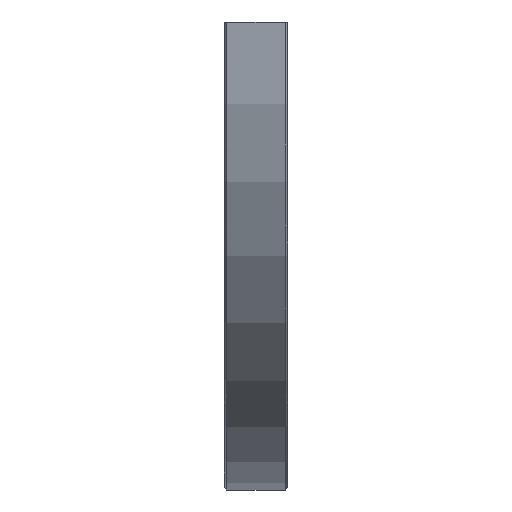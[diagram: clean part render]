
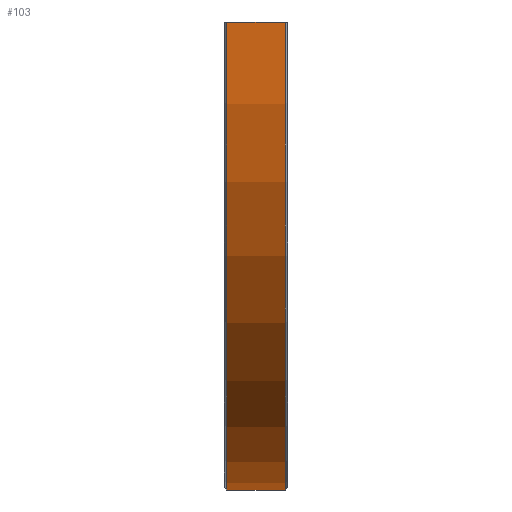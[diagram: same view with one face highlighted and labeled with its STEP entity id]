
A CAD part, left-side view. The second image highlights one B-rep face of the part: STEP entity #103.
In plain terms, the highlighted cylindrical face has radius 91 mm (diameter 182 mm), a partial arc.
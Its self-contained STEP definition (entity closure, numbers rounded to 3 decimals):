
#103=ADVANCED_FACE('',(#184),#185,.T.);
#184=FACE_OUTER_BOUND('',#284,.T.);
#185=CYLINDRICAL_SURFACE('',#285,91.0);
#284=EDGE_LOOP('',(#540,#541,#542,#543));
#285=AXIS2_PLACEMENT_3D('',#544,#545,#546);
#540=ORIENTED_EDGE('',*,*,#674,.T.);
#541=ORIENTED_EDGE('',*,*,#768,.T.);
#542=ORIENTED_EDGE('',*,*,#769,.F.);
#543=ORIENTED_EDGE('',*,*,#732,.F.);
#544=CARTESIAN_POINT('',(0.0,0.0,0.0));
#545=DIRECTION('',(0.0,-1.0,0.0));
#546=DIRECTION('',(0.0,0.0,1.0));
#674=EDGE_CURVE('',#787,#779,#788,.T.);
#732=EDGE_CURVE('',#787,#899,#900,.T.);
#768=EDGE_CURVE('',#779,#947,#948,.T.);
#769=EDGE_CURVE('',#899,#947,#949,.T.);
#779=VERTEX_POINT('',#959);
#787=VERTEX_POINT('',#971);
#788=LINE('',#972,#973);
#899=VERTEX_POINT('',#1125);
#900=CIRCLE('',#1126,91.0);
#947=VERTEX_POINT('',#1204);
#948=CIRCLE('',#1205,91.0);
#949=LINE('',#1206,#1207);
#959=CARTESIAN_POINT('',(0.,-9.325,-91.0));
#971=CARTESIAN_POINT('',(0.0,1.925,-91.0));
#972=CARTESIAN_POINT('',(0.,-3.7,-91.0));
#973=VECTOR('',#1227,1.0);
#1125=CARTESIAN_POINT('',(-90.995,1.925,-1.0));
#1126=AXIS2_PLACEMENT_3D('',#1341,#1342,#1343);
#1204=CARTESIAN_POINT('',(-90.995,-9.325,-1.0));
#1205=AXIS2_PLACEMENT_3D('',#1409,#1410,#1411);
#1206=CARTESIAN_POINT('',(-90.995,0.0,-1.0));
#1207=VECTOR('',#1412,1000.0);
#1227=DIRECTION('',(0.0,-1.0,0.0));
#1341=CARTESIAN_POINT('',(0.0,1.925,0.0));
#1342=DIRECTION('',(-0.0,1.0,0.0));
#1343=DIRECTION('',(0.0,0.0,1.0));
#1409=CARTESIAN_POINT('',(0.0,-9.325,0.0));
#1410=DIRECTION('',(-0.0,1.0,0.0));
#1411=DIRECTION('',(0.0,0.0,1.0));
#1412=DIRECTION('',(0.0,-1.0,0.0));
